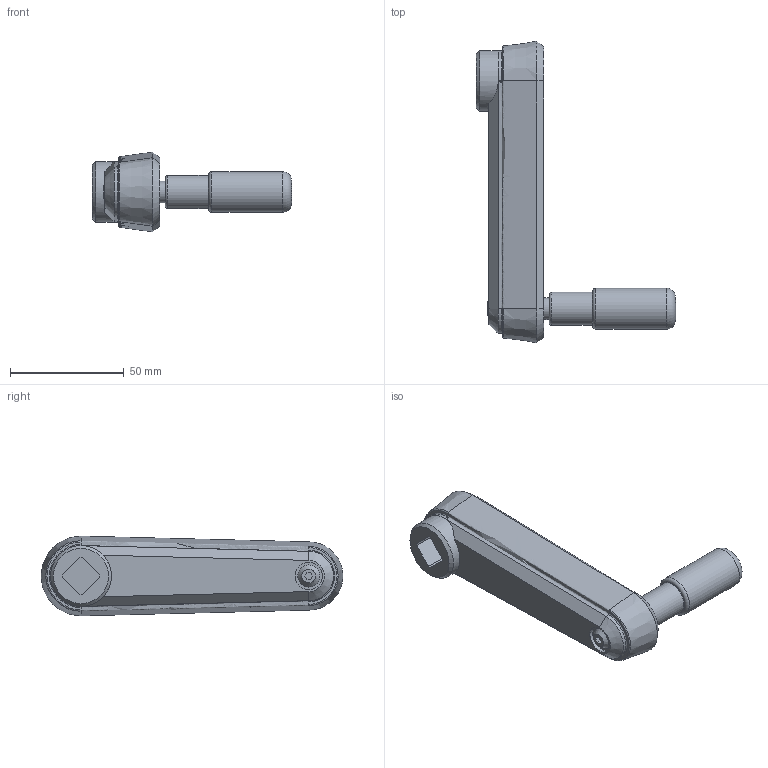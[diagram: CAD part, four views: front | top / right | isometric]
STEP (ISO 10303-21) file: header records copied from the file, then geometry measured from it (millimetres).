
FILE_DESCRIPTION( ( 'STEP AP203' ), '1' );
FILE_NAME( 'C:/Temp/Ganter_Step_05_03_2020/data/1_3/gn_472_3/Cranked handle with retractable handle GN 472.3-100-V12-SR (activated).stp', '2020-03-05T10:46:02', ( 'License CC BY-ND 4.0' ), ( 'CADENAS' ), ' ', 'PARTsolutions', ' ' );
FILE_SCHEMA( ( 'CONFIG_CONTROL_DESIGN' ) );
Length unit declared in the file: millimetre
Products named in the file (3): Cranked handle with retractable handle GN 472.3-100-V12-SR (activated); _Cranked handle with retractable handle GN 472.3-100-V12-SR (90)-1; _Cranked handle with retractable handle GN 472.3-100-V12-SR (90)-2
Assembly tree (2 placements, depth 2):
  Cranked handle with retractable handle GN 472.3-100-V12-SR (activated)
    _Cranked handle with retractable handle GN 472.3-100-V12-SR (90)-1
    _Cranked handle with retractable handle GN 472.3-100-V12-SR (90)-2
Bounding box: 87.44 x 132.5 x 35 mm (x, y, z)
Volume: 67127.3 mm3; surface area: 23954.7 mm2
Topology: 2 solids, 3 shells, 101 faces, 250 edges, 165 vertices
Faces by surface type: plane 50, cylinder 26, torus 12, cone 10, bspline 2, sphere 1
Full cylindrical faces by diameter (mm): 3 x2, 8 x1, 9.5 x1, 12 x1, 14.5 x1, 16.02 x1, 18 x1, 20 x2, 26.7 x1
Entity records: 3154 total; most frequent: CARTESIAN_POINT 764, DIRECTION 467, ORIENTED_EDGE 448, EDGE_CURVE 224, AXIS2_PLACEMENT_3D 184, VERTEX_POINT 160, EDGE_LOOP 135, FACE_OUTER_BOUND 118
